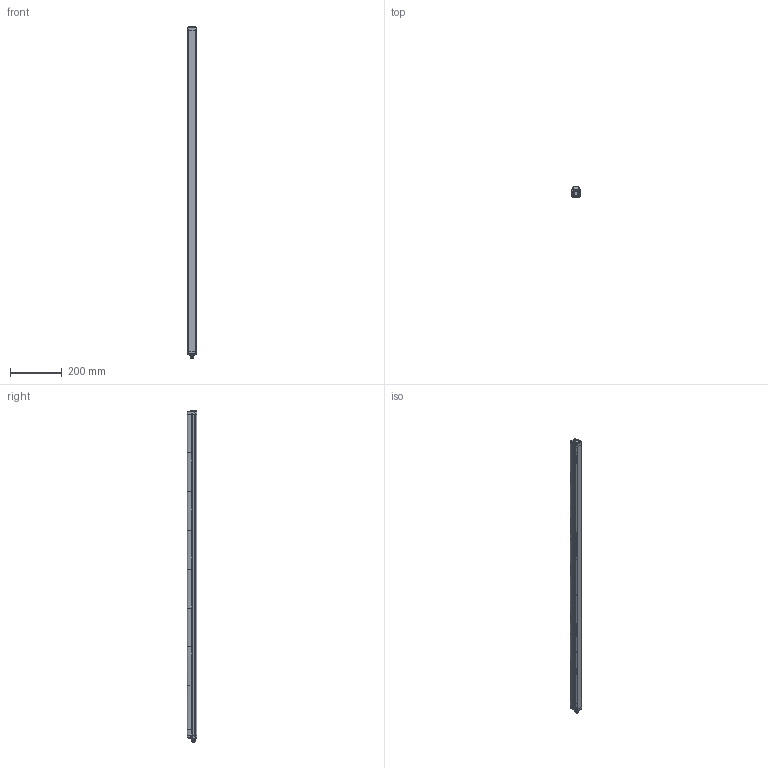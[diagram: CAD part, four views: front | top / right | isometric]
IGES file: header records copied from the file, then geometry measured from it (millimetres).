
Global section: file name: D:\Studi\DSD-0164.igs; preprocessor: I-DEAS 3D IGES Translator 11; date: 20080609.143922; units: millimetre
Bounding box: 32.3 x 36.9 x 1283.34 mm (x, y, z)
Volume: 1281771 mm3; surface area: 299394.5 mm2
Topology: 12 solids, 12 shells, 1634 faces, 6361 edges, 5198 vertices
Faces by surface type: bspline 1634
